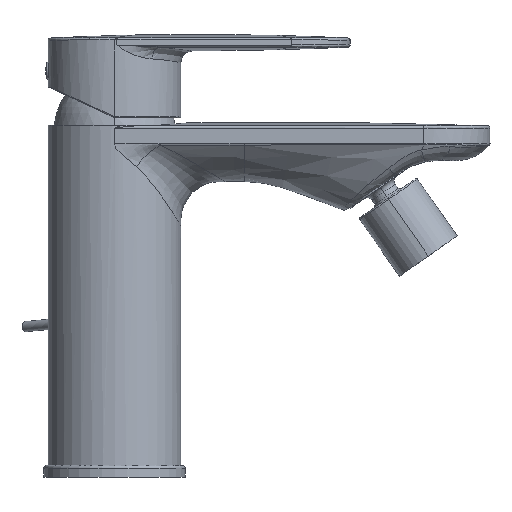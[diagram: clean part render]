
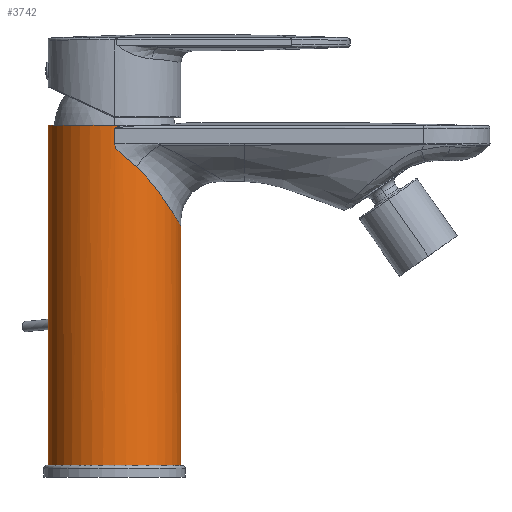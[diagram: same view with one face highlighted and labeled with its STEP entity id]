
A CAD part, top view. The second image highlights one B-rep face of the part: STEP entity #3742.
In plain terms, the highlighted cylindrical face has radius 22.5 mm (diameter 45 mm), a partial arc.
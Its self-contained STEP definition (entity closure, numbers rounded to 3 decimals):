
#71=CARTESIAN_POINT('',(0.,0.,0.));
#72=DIRECTION('',(0.,1.,0.));
#73=DIRECTION('',(-1.,0.,0.));
#74=AXIS2_PLACEMENT_3D('',#71,#72,#73);
#124=DIRECTION('',(0.,1.,0.));
#125=VECTOR('',#124,115.532);
#126=CARTESIAN_POINT('',(-22.5,0.,0.));
#127=LINE('',#126,#125);
#128=CARTESIAN_POINT('',(2.791,115.532,22.326));
#129=CARTESIAN_POINT('',(2.755,115.521,22.331));
#130=CARTESIAN_POINT('',(2.64,115.486,22.345));
#131=CARTESIAN_POINT('',(2.452,115.427,22.366));
#132=CARTESIAN_POINT('',(2.232,115.357,22.389));
#133=CARTESIAN_POINT('',(2.026,115.292,22.409));
#134=CARTESIAN_POINT('',(1.835,115.23,22.425));
#135=CARTESIAN_POINT('',(1.657,115.172,22.439));
#136=CARTESIAN_POINT('',(1.493,115.118,22.451));
#137=CARTESIAN_POINT('',(1.342,115.067,22.46));
#138=CARTESIAN_POINT('',(1.204,115.02,22.468));
#139=CARTESIAN_POINT('',(1.078,114.977,22.474));
#140=CARTESIAN_POINT('',(0.965,114.938,22.479));
#141=CARTESIAN_POINT('',(0.863,114.903,22.484));
#142=CARTESIAN_POINT('',(0.771,114.871,22.487));
#143=CARTESIAN_POINT('',(0.688,114.841,22.49));
#144=CARTESIAN_POINT('',(0.612,114.813,22.492));
#145=CARTESIAN_POINT('',(0.543,114.788,22.493));
#146=CARTESIAN_POINT('',(0.48,114.764,22.495));
#147=CARTESIAN_POINT('',(0.423,114.743,22.496));
#148=CARTESIAN_POINT('',(0.371,114.723,22.497));
#149=CARTESIAN_POINT('',(0.324,114.704,22.498));
#150=CARTESIAN_POINT('',(0.281,114.687,22.498));
#151=CARTESIAN_POINT('',(0.243,114.671,22.499));
#152=CARTESIAN_POINT('',(0.208,114.656,22.499));
#153=CARTESIAN_POINT('',(0.175,114.642,22.499));
#154=CARTESIAN_POINT('',(0.146,114.629,22.5));
#155=CARTESIAN_POINT('',(0.119,114.616,22.5));
#156=CARTESIAN_POINT('',(0.094,114.604,22.5));
#157=CARTESIAN_POINT('',(0.071,114.592,22.5));
#158=CARTESIAN_POINT('',(0.05,114.58,22.5));
#159=CARTESIAN_POINT('',(0.033,114.57,22.5));
#160=CARTESIAN_POINT('',(0.023,114.564,22.5));
#161=CARTESIAN_POINT('',(0.02,114.562,22.5));
#163=DIRECTION('',(0.,-1.,0.));
#164=VECTOR('',#163,5.28);
#165=CARTESIAN_POINT('',(0.001,114.556,22.5));
#166=LINE('',#165,#164);
#167=CARTESIAN_POINT('',(0.,109.276,22.5));
#168=CARTESIAN_POINT('',(-0.002,109.246,22.5));
#169=CARTESIAN_POINT('',(-0.01,109.186,22.5));
#170=CARTESIAN_POINT('',(-0.005,109.094,22.5));
#171=CARTESIAN_POINT('',(-0.003,109.032,22.5));
#172=CARTESIAN_POINT('',(0.,109.,22.5));
#174=CARTESIAN_POINT('',(0.,109.,22.5));
#175=CARTESIAN_POINT('',(0.063,108.624,22.5));
#176=CARTESIAN_POINT('',(0.267,107.929,22.5));
#177=CARTESIAN_POINT('',(0.859,107.173,22.486));
#178=CARTESIAN_POINT('',(1.582,106.347,22.451));
#179=CARTESIAN_POINT('',(2.425,105.567,22.374));
#180=CARTESIAN_POINT('',(2.911,105.135,22.311));
#182=CARTESIAN_POINT('',(2.911,105.135,22.311));
#183=CARTESIAN_POINT('',(3.438,104.686,22.242));
#184=CARTESIAN_POINT('',(4.473,103.81,22.071));
#185=CARTESIAN_POINT('',(6.07,102.538,21.684));
#186=CARTESIAN_POINT('',(6.953,101.769,21.403));
#187=CARTESIAN_POINT('',(7.367,101.401,21.26));
#189=CARTESIAN_POINT('',(7.367,101.401,21.26));
#190=CARTESIAN_POINT('',(7.5,101.276,21.213));
#191=CARTESIAN_POINT('',(7.767,101.025,21.119));
#192=CARTESIAN_POINT('',(8.297,100.519,20.917));
#193=CARTESIAN_POINT('',(9.209,99.632,20.543));
#194=CARTESIAN_POINT('',(10.471,98.349,19.938));
#195=CARTESIAN_POINT('',(11.911,96.764,19.112));
#196=CARTESIAN_POINT('',(13.263,95.096,18.2));
#197=CARTESIAN_POINT('',(14.543,93.412,17.194));
#198=CARTESIAN_POINT('',(15.756,91.746,16.091));
#199=CARTESIAN_POINT('',(16.898,90.12,14.888));
#200=CARTESIAN_POINT('',(17.96,88.569,13.588));
#201=CARTESIAN_POINT('',(18.772,87.348,12.427));
#202=CARTESIAN_POINT('',(19.378,86.414,11.446));
#203=CARTESIAN_POINT('',(19.938,85.532,10.454));
#204=CARTESIAN_POINT('',(20.581,84.497,9.151));
#205=CARTESIAN_POINT('',(21.253,83.409,7.462));
#206=CARTESIAN_POINT('',(21.798,82.533,5.679));
#207=CARTESIAN_POINT('',(22.2,81.897,3.824));
#208=CARTESIAN_POINT('',(22.446,81.515,1.921));
#209=CARTESIAN_POINT('',(22.499,81.432,0.64));
#210=CARTESIAN_POINT('',(22.5,81.431,0.));
#212=DIRECTION('',(0.,-1.,0.));
#213=VECTOR('',#212,81.431);
#214=CARTESIAN_POINT('',(22.5,81.431,0.));
#215=LINE('',#214,#213);
#290=CARTESIAN_POINT('',(0.,115.532,0.));
#291=DIRECTION('',(0.,-1.,0.));
#292=DIRECTION('',(0.124,0.,0.992));
#293=AXIS2_PLACEMENT_3D('',#290,#291,#292);
#3249=CARTESIAN_POINT('',(22.5,0.,0.));
#3250=CARTESIAN_POINT('',(-22.5,0.,0.));
#3251=VERTEX_POINT('',#3249);
#3252=VERTEX_POINT('',#3250);
#3253=CARTESIAN_POINT('',(22.5,81.431,0.));
#3254=VERTEX_POINT('',#3253);
#3262=CARTESIAN_POINT('',(-22.5,115.532,0.));
#3263=VERTEX_POINT('',#3262);
#3282=CARTESIAN_POINT('',(2.791,115.532,22.326));
#3283=VERTEX_POINT('',#3282);
#3284=VERTEX_POINT('',#161);
#3285=CARTESIAN_POINT('',(0.,109.276,
22.5));
#3286=VERTEX_POINT('',#3285);
#3287=VERTEX_POINT('',#172);
#3288=VERTEX_POINT('',#180);
#3289=VERTEX_POINT('',#187);
#3718=CARTESIAN_POINT('',(0.,-4.5,0.));
#3719=DIRECTION('',(0.,-1.,0.));
#3720=DIRECTION('',(1.,0.,0.));
#3721=AXIS2_PLACEMENT_3D('',#3718,#3719,#3720);
#3722=CYLINDRICAL_SURFACE('',#3721,22.5);
#3723=ORIENTED_EDGE('',*,*,#3645,.F.);
#3724=ORIENTED_EDGE('',*,*,#3618,.T.);
#3726=ORIENTED_EDGE('',*,*,#3725,.F.);
#3728=ORIENTED_EDGE('',*,*,#3727,.T.);
#3730=ORIENTED_EDGE('',*,*,#3729,.T.);
#3732=ORIENTED_EDGE('',*,*,#3731,.T.);
#3734=ORIENTED_EDGE('',*,*,#3733,.T.);
#3736=ORIENTED_EDGE('',*,*,#3735,.T.);
#3738=ORIENTED_EDGE('',*,*,#3737,.T.);
#3739=ORIENTED_EDGE('',*,*,#3602,.T.);
#3740=EDGE_LOOP('',(#3723,#3724,#3726,#3728,#3730,#3732,#3734,#3736,#3738,
#3739));
#3741=FACE_OUTER_BOUND('',#3740,.F.);
#3742=ADVANCED_FACE('',(#3741),#3722,.T.);
#75=CIRCLE('',#74,22.5);
#162=B_SPLINE_CURVE_WITH_KNOTS('',3,(#128,#129,#130,#131,#132,#133,#134,#135,
#136,#137,#138,#139,#140,#141,#142,#143,#144,#145,#146,#147,#148,#149,#150,#151,
#152,#153,#154,#155,#156,#157,#158,#159,#160,#161),.UNSPECIFIED.,.F.,.F.,(4,1,1,
1,1,1,1,1,1,1,1,1,1,1,1,1,1,1,1,1,1,1,1,1,1,1,1,1,1,1,1,4),(0.,
0.038,0.123,0.202,0.276,
0.344,0.408,0.467,0.521,
0.571,0.616,0.656,0.693,
0.726,0.756,0.783,0.808,
0.83,0.851,0.87,0.887,
0.903,0.917,0.93,0.941,
0.952,0.962,0.971,0.98,
0.988,0.996,1.),.UNSPECIFIED.);
#173=B_SPLINE_CURVE_WITH_KNOTS('',3,(#167,#168,#169,#170,#171,#172),
.UNSPECIFIED.,.F.,.F.,(4,1,1,4),(0.,0.333,0.667,1.),
.UNSPECIFIED.);
#181=B_SPLINE_CURVE_WITH_KNOTS('',3,(#174,#175,#176,#177,#178,#179,#180),
.UNSPECIFIED.,.F.,.F.,(4,1,1,1,4),(0.,0.25,0.5,0.75,1.),
.UNSPECIFIED.);
#188=B_SPLINE_CURVE_WITH_KNOTS('',3,(#182,#183,#184,#185,#186,#187),
.UNSPECIFIED.,.F.,.F.,(4,1,1,4),(0.,0.333,0.667,1.),
.UNSPECIFIED.);
#211=B_SPLINE_CURVE_WITH_KNOTS('',3,(#189,#190,#191,#192,#193,#194,#195,#196,
#197,#198,#199,#200,#201,#202,#203,#204,#205,#206,#207,#208,#209,#210),
.UNSPECIFIED.,.F.,.F.,(4,1,1,1,1,1,1,1,1,1,1,1,1,1,1,1,1,1,1,4),(0.,
0.019,0.037,0.075,0.148,
0.221,0.292,0.362,0.43,
0.497,0.562,0.626,0.658,
0.688,0.746,0.8,0.852,
0.902,0.951,1.),.UNSPECIFIED.);
#294=CIRCLE('',#293,22.5);
#3602=EDGE_CURVE('',#3254,#3251,#215,.T.);
#3618=EDGE_CURVE('',#3252,#3263,#127,.T.);
#3645=EDGE_CURVE('',#3252,#3251,#75,.T.);
#3725=EDGE_CURVE('',#3283,#3263,#294,.T.);
#3727=EDGE_CURVE('',#3283,#3284,#162,.T.);
#3729=EDGE_CURVE('',#3284,#3286,#166,.T.);
#3731=EDGE_CURVE('',#3286,#3287,#173,.T.);
#3733=EDGE_CURVE('',#3287,#3288,#181,.T.);
#3735=EDGE_CURVE('',#3288,#3289,#188,.T.);
#3737=EDGE_CURVE('',#3289,#3254,#211,.T.);
